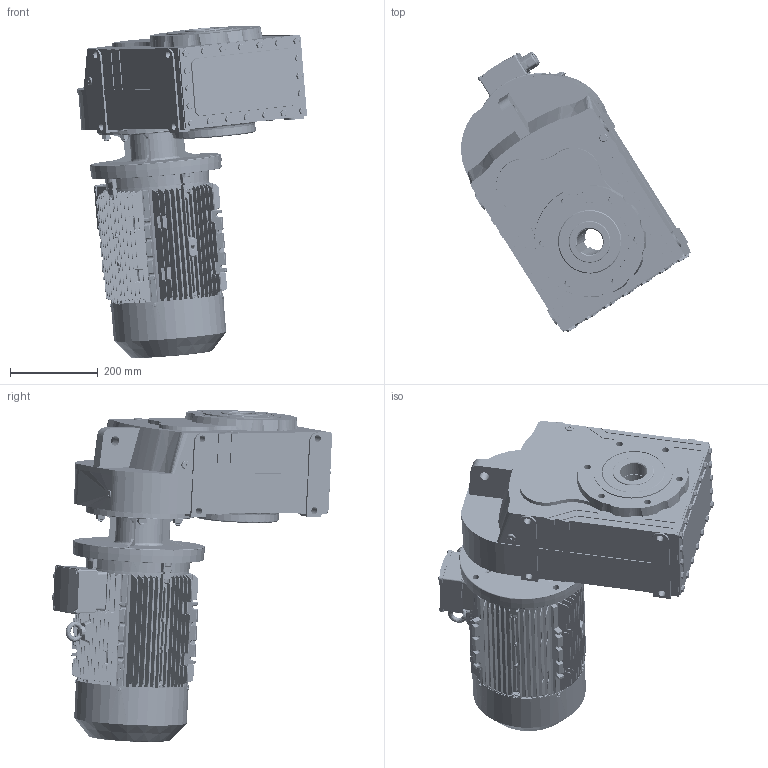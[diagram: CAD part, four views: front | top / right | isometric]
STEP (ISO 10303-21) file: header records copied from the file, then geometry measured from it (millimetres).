
FILE_DESCRIPTION (( 'STEP AP203' ), '1' );
FILE_NAME ('DV_573_0_MX3-132M.STEP', '2018-11-15T14:26:24', ( '' ), ( '' ), 'SwSTEP 2.0', 'SolidWorks 2012', '' );
FILE_SCHEMA (( 'CONFIG_CONTROL_DESIGN' ));
Products named in the file (25): MX3-132M_B5; DV_573_0_MX3-132M; hexagon flange head tapping screws gb_GB_SQUARE_AND_HEXAGON_TYPE137 ST4.2X9.5 C-N; hexagon socket head cap screws gb_GB_FASTENER_SCREWS_HSHCS M8X40-N_1; cross recessed pan head screws gb_GB_CROSS_SCREWS_TYPE1 M5X12-12  H type-N_1; circlips for shaft--type a large gb_GB_CONNECTING_PIECE_RING_RRA 28; hex nuts, style 1-grades ab gb_GB_FASTENER_NUT_SNAB1 M8-N; 132M B5ﾂ-ｩﾃ; hexagon socket head cap screws gb_GB_FASTENER_SCREWS_HSHCS M8X45-N; spring lock washers--normal type gb_GB_FASTENER_WASHER_SW 8_1; eyebolts gb_GB_FASTENER_SCREWS_FRS M10-N_1; plain parallel keys_GB_CONNECTING_PIECE_KEYS_CSK 10X70_1; ﾋ-ﾀﾔ40X58X7; -戌呲25; 132〩仁佞蹉峔; 132〩仁佞怔; 132ÀþiÍ; 132M 俓; 132 瞬++-4; deep groove ball bearings gb_Rolling bearings 6308 GB 276-94_1; 132B3ﾂ-ｩﾃ; ML59A_Varsayìlan_1; D573_Varsayìlan_1; 43132B5_Varsayìlan; 132M B5+ｷ+ﾃ
Assembly tree (52 placements, depth 3):
  DV_573_0_MX3-132M
    D573_Varsayìlan_1
    43132B5_Varsayìlan
    ML59A_Varsayìlan_1
    MX3-132M_B5
      132M B5+ｷ+ﾃ
      132B3ﾂ-ｩﾃ
      132M 俓
      deep groove ball bearings gb_Rolling bearings 6308 GB 276-94_1  x2
      132 瞬++-4
      132ÀþiÍ
      132〩仁佞蹉峔
      132〩仁佞怔
      -戌呲25  x2
      ﾋ-ﾀﾔ40X58X7
      plain parallel keys_GB_CONNECTING_PIECE_KEYS_CSK 10X70_1
      eyebolts gb_GB_FASTENER_SCREWS_FRS M10-N_1
      132M B5ﾂ-ｩﾃ
      hexagon socket head cap screws gb_GB_FASTENER_SCREWS_HSHCS M8X45-N  x4
      spring lock washers--normal type gb_GB_FASTENER_WASHER_SW 8_1  x8
      hex nuts, style 1-grades ab gb_GB_FASTENER_NUT_SNAB1 M8-N  x7
      hexagon socket head cap screws gb_GB_FASTENER_SCREWS_HSHCS M8X40-N_1  x5
      circlips for shaft--type a large gb_GB_CONNECTING_PIECE_RING_RRA 28
      hexagon flange head tapping screws gb_GB_SQUARE_AND_HEXAGON_TYPE137 ST4.2X9.5 C-N  x4
      cross recessed pan head screws gb_GB_CROSS_SCREWS_TYPE1 M5X12-12  H type-N_1  x4
Bounding box: 523.02 x 639.12 x 755.99 mm (x, y, z)
Volume: 36474057.2 mm3; surface area: 3174656 mm2
Topology: 54 solids, 56 shells, 8708 faces, 22326 edges, 13644 vertices
Faces by surface type: plane 2955, cylinder 2204, bspline 2124, cone 905, torus 382, sphere 138
Entity records: 323789 total; most frequent: CARTESIAN_POINT 143570, ORIENTED_EDGE 40582, DIRECTION 31710, EDGE_CURVE 20291, VERTEX_POINT 12489, AXIS2_PLACEMENT_3D 11695, EDGE_LOOP 8746, VECTOR 8320
